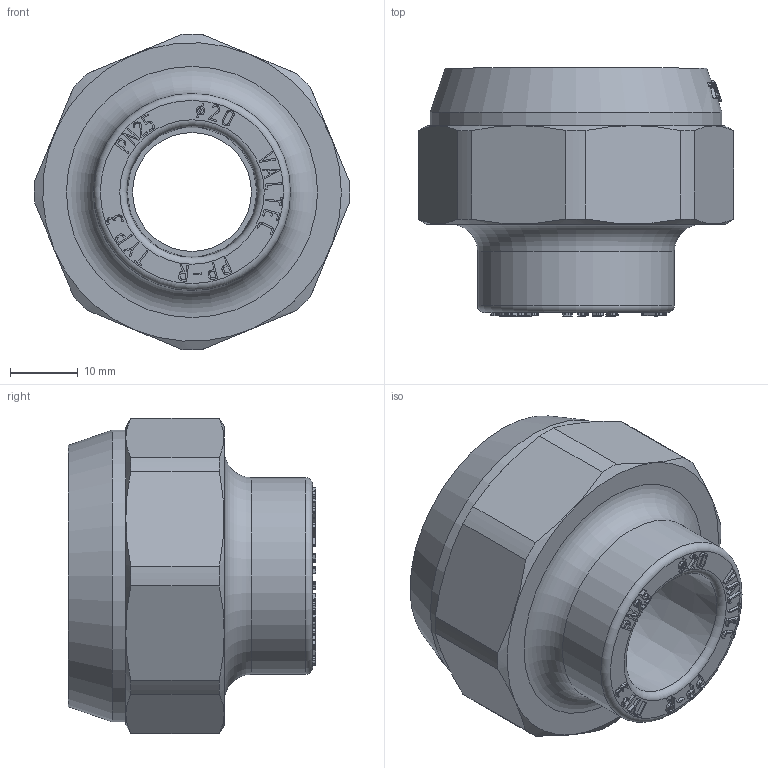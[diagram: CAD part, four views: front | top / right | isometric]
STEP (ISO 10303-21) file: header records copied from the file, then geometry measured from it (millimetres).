
FILE_DESCRIPTION(('STEP AP203'), '1');
FILE_NAME('ÂÐ.753153.009 - VTp.702.0.02005', '', ('UNSPECIFIED'), ('UNSPECIFIED'), 'C3D Converter', 'C3D Toolkit', '');
FILE_SCHEMA(('CONFIG_CONTROL_DESIGN'));
Length unit declared in the file: millimetre
Products named in the file (4): ВР.753153.009; ВР.302639.015.000; ВР.713661.002
Assembly tree (3 placements, depth 3):
  ВР.753153.009
    ВР.302639.015.000
      ВР.713661.002
      (unnamed)
Bounding box: 46.49 x 36.5 x 46.49 mm (x, y, z)
Volume: 31736.2 mm3; surface area: 17564.8 mm2
Topology: 3 solids, 3 shells, 850 faces, 2351 edges, 1562 vertices
Faces by surface type: extrusion 439, plane 348, cylinder 32, cone 23, torus 8
Full cylindrical faces by diameter (mm): 17.5 x1, 24.118 x1, 27 x2, 29 x1, 29.5 x8, 33.5 x10, 43 x1
Entity records: 30586 total; most frequent: CARTESIAN_POINT 10623, ORIENTED_EDGE 4606, DIRECTION 2746, EDGE_CURVE 2303, VECTOR 1580, VERTEX_POINT 1553, B_SPLINE_CURVE_WITH_KNOTS 1438, LINE 1141
